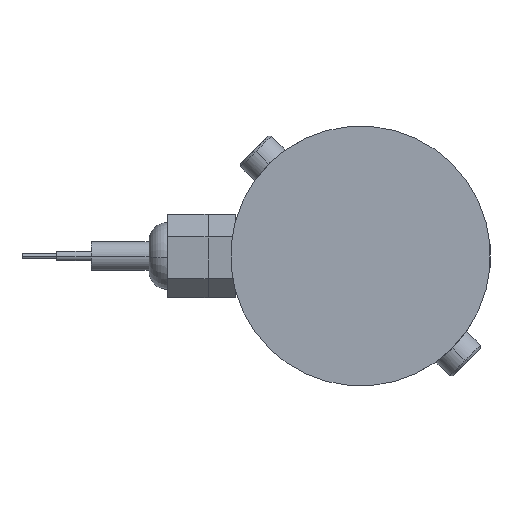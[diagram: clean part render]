
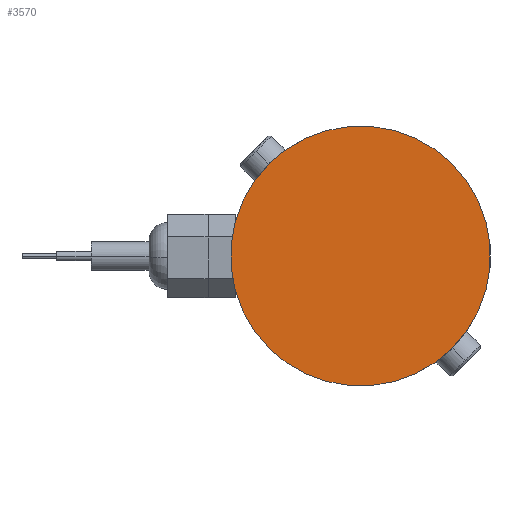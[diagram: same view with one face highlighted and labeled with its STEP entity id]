
A CAD part, left-side view. The second image highlights one B-rep face of the part: STEP entity #3570.
In plain terms, the highlighted planar face has unit normal (-1, 0, 0).
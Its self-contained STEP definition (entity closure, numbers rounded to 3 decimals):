
#155 = FACE_OUTER_BOUND ( 'NONE', #2063, .T. ) ;
#251 = AXIS2_PLACEMENT_3D ( 'NONE', #3271, #4090, #1627 ) ;
#820 = VERTEX_POINT ( 'NONE', #1250 ) ;
#1250 = CARTESIAN_POINT ( 'NONE',  ( 0., -20.206, -20.206 ) ) ;
#1327 = PLANE ( 'NONE',  #2796 ) ;
#1374 = ORIENTED_EDGE ( 'NONE', *, *, #1652, .F. ) ;
#1436 = VERTEX_POINT ( 'NONE', #2298 ) ;
#1627 = DIRECTION ( 'NONE',  ( 0., -0.707, -0.707 ) ) ;
#1652 = EDGE_CURVE ( 'NONE', #820, #1436, #3978, .T. ) ;
#1885 = DIRECTION ( 'NONE',  ( 0., -0.707, -0.707 ) ) ;
#2063 = EDGE_LOOP ( 'NONE', ( #4086, #1374 ) ) ;
#2135 = DIRECTION ( 'NONE',  ( 1., 0., 0. ) ) ;
#2174 = DIRECTION ( 'NONE',  ( 0., -0.707, -0.707 ) ) ;
#2279 = DIRECTION ( 'NONE',  ( 1., 0., 0. ) ) ;
#2298 = CARTESIAN_POINT ( 'NONE',  ( 0., 20.206, 20.206 ) ) ;
#2680 = CARTESIAN_POINT ( 'NONE',  ( 0., 0., 0. ) ) ;
#2796 = AXIS2_PLACEMENT_3D ( 'NONE', #2680, #2279, #1885 ) ;
#2841 = EDGE_CURVE ( 'NONE', #1436, #820, #4606, .T. ) ;
#3271 = CARTESIAN_POINT ( 'NONE',  ( 0., 0., 0. ) ) ;
#3570 = ADVANCED_FACE ( 'NONE', ( #155 ), #1327, .F. ) ;
#3978 = CIRCLE ( 'NONE', #251, 28.575 ) ;
#4086 = ORIENTED_EDGE ( 'NONE', *, *, #2841, .F. ) ;
#4090 = DIRECTION ( 'NONE',  ( 1., 0., 0. ) ) ;
#4201 = CARTESIAN_POINT ( 'NONE',  ( 0., 0., 0. ) ) ;
#4606 = CIRCLE ( 'NONE', #4793, 28.575 ) ;
#4793 = AXIS2_PLACEMENT_3D ( 'NONE', #4201, #2135, #2174 ) ;
